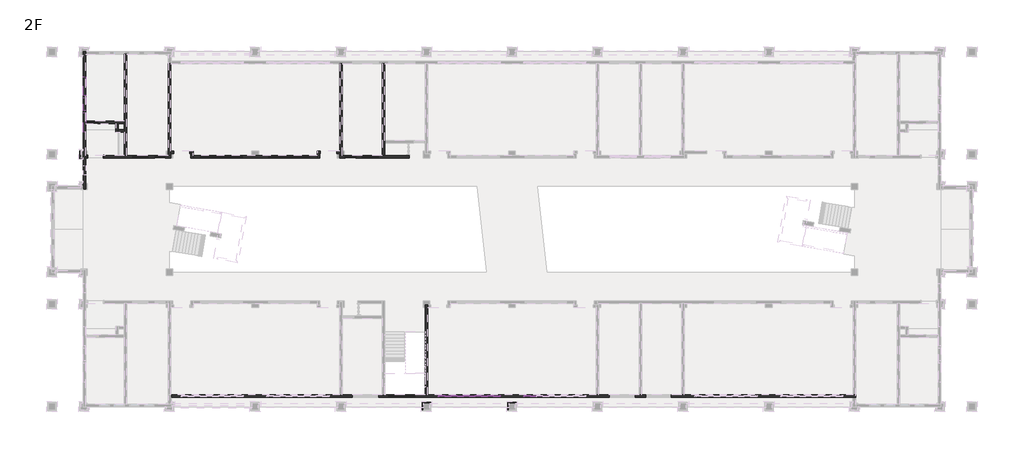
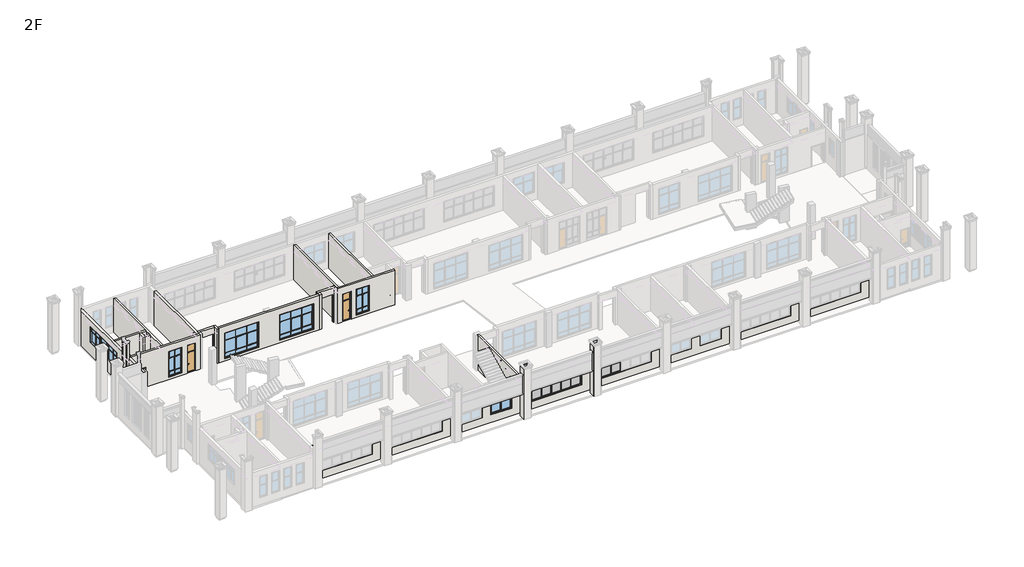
# One storey, part 3 of 16: 32 members, 23 walls, 11 plates, 8 windows, 4 doors.
"""IFC4 building model written with IfcOpenShell, lengths in millimetres."""

from ifc_helpers import new_model, si_unit, frame, origin, place, context, project, spatial, polyline, outline, extrude, faceted_brep, transform, mapped, element, save
from components import dk2_dk2_fd451be2, m2_m2_dfb05117, m2_m2_a1934b10, m3_m3_9c525ee5, member_7564be38, member_1f4d75dd, member_0b7842ad, member_163d5e45, member_ffafc35e, member_2b011958, member_9c26cac3, member_6c42befd, member_a374fdad, plate_f4dba16c, plate_1cc4df2b, plate_4fa5932a, plate_00f9c624, plate_18a10205, window_f5fa71fb, lc4_lc4_b4c6c5ac, lc5_lc5_9ec79463, lc6_lc6_03a52bd1, lc6_lc6_d9b30954, lc7_lc7_e78a5a98, lc7a_lc7a_525a1188

model = new_model("IFC4")

# Units and contexts
model_context = context("Model", 3, world=origin())
ifc_project = project(units=[si_unit("LENGTHUNIT", "METRE", prefix="MILLI")], contexts=[model_context])

# Site, building, storey
site = spatial("IfcSite", under=ifc_project)
building = spatial("IfcBuilding", under=site)
storey = spatial("IfcBuildingStorey", under=building, Name="2F", Elevation=4200.0)

# Doors
placement = place(None, origin())
dk2_dk2_shape = dk2_dk2_fd451be2(model_context)
element("IfcDoor", 1, ObjectType="DK2 : DK2", at=placement, inside=storey, context=model_context, shape_type="MappedRepresentation", body=[
    mapped(dk2_dk2_shape, transform((4075.0, 23399.723093, 4200.0), x_axis=(1.0, 0.0, 0.0), y_axis=(0.0, 1.0, 0.0), z_axis=(0.0, 0.0, 1.0))),
])
m2_m2_shape = m2_m2_dfb05117(model_context)
element("IfcDoor", 2, ObjectType="M2 : M2", at=placement, inside=storey, context=model_context, shape_type="MappedRepresentation", body=[
    mapped(m2_m2_shape, transform((27900.0000051, 23399.6954638, 4200.0), x_axis=(1.0, 0.0, 0.0), y_axis=(0.0, 1.0, 0.0), z_axis=(0.0, 0.0, 1.0))),
])
m2_m2_2_shape = m2_m2_a1934b10(model_context)
element("IfcDoor", 3, ObjectType="M2 : M2", at=placement, inside=storey, context=model_context, shape_type="MappedRepresentation", body=[
    mapped(m2_m2_2_shape, transform((10100.0000001, 23399.723093, 4200.0), x_axis=(-1.0, 0.0, 0.0), y_axis=(0.0, -1.0, 0.0), z_axis=(0.0, 0.0, 1.0))),
])
m3_m3_shape = m3_m3_9c525ee5(model_context)
element("IfcDoor", 4, ObjectType="M3 : M3", at=placement, inside=storey, context=model_context, shape_type="MappedRepresentation", body=[
    mapped(m3_m3_shape, transform((3800.0000003, 26599.2230983, 4200.0), x_axis=(1.0, 0.0, 0.0), y_axis=(0.0, 1.0, 0.0), z_axis=(0.0, 0.0, 1.0))),
])

# Members
member_shape = member_7564be38(model_context)
element("IfcMember", 5, ObjectType="矩形竖梃 : 教学楼 – 矩形竖梃 – 100x150mm", at=placement, inside=storey, context=model_context, shape_type="MappedRepresentation", body=[
    mapped(member_shape, transform((41900.0, 990.0, 7600.0), x_axis=(0.0, 0.0, 1.0), y_axis=(0.0, -1.0, 0.0), z_axis=(1.0, 0.0, 0.0))),
])
element("IfcMember", 6, ObjectType="矩形竖梃 : 教学楼 – 矩形竖梃 – 100x150mm", at=placement, inside=storey, context=model_context, shape_type="MappedRepresentation", body=[
    mapped(member_shape, transform((36100.0, 990.0, 5100.0), x_axis=(0.0, 0.0, -1.0), y_axis=(0.0, -1.0, 0.0), z_axis=(-1.0, 0.0, 0.0))),
])
element("IfcMember", 7, ObjectType="矩形竖梃 : 教学楼 – 矩形竖梃 – 100x150mm", at=placement, inside=storey, context=model_context, shape_type="MappedRepresentation", body=[
    mapped(member_shape, transform((44100.0, 990.0, 5100.0), x_axis=(0.0, 0.0, -1.0), y_axis=(0.0, -1.0, 0.0), z_axis=(-1.0, 0.0, 0.0))),
])
member_2_shape = member_1f4d75dd(model_context)
element("IfcMember", 8, ObjectType="矩形竖梃 : 教学楼 – 矩形竖梃 – 50x150mm", at=placement, inside=storey, context=model_context, shape_type="MappedRepresentation", body=[
    mapped(member_2_shape, transform((38450.0, 990.0, 5200.0), x_axis=(1.0, 0.0, 0.0), y_axis=(0.0, -1.0, 0.0), z_axis=(0.0, 0.0, -1.0))),
])
element("IfcMember", 9, ObjectType="矩形竖梃 : 教学楼 – 矩形竖梃 – 50x150mm", at=placement, inside=storey, context=model_context, shape_type="MappedRepresentation", body=[
    mapped(member_2_shape, transform((39550.0, 990.0, 5200.0), x_axis=(1.0, 0.0, 0.0), y_axis=(0.0, -1.0, 0.0), z_axis=(0.0, 0.0, -1.0))),
])
member_3_shape = member_0b7842ad(model_context)
element("IfcMember", 10, ObjectType="矩形竖梃 : 教学楼 – 矩形竖梃 – 50x150mm", at=placement, inside=storey, context=model_context, shape_type="MappedRepresentation", body=[
    mapped(member_3_shape, transform((37300.0, 990.0, 6650.0), x_axis=(0.0, 0.0, 1.0), y_axis=(0.0, -1.0, 0.0), z_axis=(1.0, 0.0, 0.0))),
])
element("IfcMember", 11, ObjectType="矩形竖梃 : 教学楼 – 矩形竖梃 – 50x150mm", at=placement, inside=storey, context=model_context, shape_type="MappedRepresentation", body=[
    mapped(member_3_shape, transform((45300.0, 990.0, 6650.0), x_axis=(0.0, 0.0, 1.0), y_axis=(0.0, -1.0, 0.0), z_axis=(1.0, 0.0, 0.0))),
])
member_4_shape = member_163d5e45(model_context)
element("IfcMember", 12, ObjectType="矩形竖梃 : 教学楼 – 矩形竖梃 – 50x150mm", at=placement, inside=storey, context=model_context, shape_type="MappedRepresentation", body=[
    mapped(member_4_shape, transform((38450.0, 990.0, 6650.0), x_axis=(0.0, 0.0, 1.0), y_axis=(0.0, -1.0, 0.0), z_axis=(1.0, 0.0, 0.0))),
])
element("IfcMember", 13, ObjectType="矩形竖梃 : 教学楼 – 矩形竖梃 – 50x150mm", at=placement, inside=storey, context=model_context, shape_type="MappedRepresentation", body=[
    mapped(member_4_shape, transform((40700.0, 990.0, 6650.0), x_axis=(0.0, 0.0, 1.0), y_axis=(0.0, -1.0, 0.0), z_axis=(1.0, 0.0, 0.0))),
])
element("IfcMember", 14, ObjectType="矩形竖梃 : 教学楼 – 矩形竖梃 – 50x150mm", at=placement, inside=storey, context=model_context, shape_type="MappedRepresentation", body=[
    mapped(member_3_shape, transform((39550.0, 990.0, 6650.0), x_axis=(0.0, 0.0, 1.0), y_axis=(0.0, -1.0, 0.0), z_axis=(1.0, 0.0, 0.0))),
])
element("IfcMember", 15, ObjectType="矩形竖梃 : 教学楼 – 矩形竖梃 – 50x150mm", at=placement, inside=storey, context=model_context, shape_type="MappedRepresentation", body=[
    mapped(member_3_shape, transform((41800.0, 990.0, 6650.0), x_axis=(0.0, 0.0, 1.0), y_axis=(0.0, -1.0, 0.0), z_axis=(1.0, 0.0, 0.0))),
])
member_5_shape = member_ffafc35e(model_context)
element("IfcMember", 16, ObjectType="矩形竖梃 : 教学楼 – 矩形竖梃 – 100x150mm", at=placement, inside=storey, context=model_context, shape_type="MappedRepresentation", body=[
    mapped(member_5_shape, transform((37300.0, 990.0, 5100.0), x_axis=(0.0, 0.0, -1.0), y_axis=(0.0, -1.0, 0.0), z_axis=(-1.0, 0.0, 0.0))),
])
element("IfcMember", 17, ObjectType="矩形竖梃 : 教学楼 – 矩形竖梃 – 100x150mm", at=placement, inside=storey, context=model_context, shape_type="MappedRepresentation", body=[
    mapped(member_5_shape, transform((45300.0, 990.0, 5100.0), x_axis=(0.0, 0.0, -1.0), y_axis=(0.0, -1.0, 0.0), z_axis=(-1.0, 0.0, 0.0))),
])
member_6_shape = member_2b011958(model_context)
element("IfcMember", 18, ObjectType="矩形竖梃 : 教学楼 – 矩形竖梃 – 100x150mm", at=placement, inside=storey, context=model_context, shape_type="MappedRepresentation", body=[
    mapped(member_6_shape, transform((38450.0, 990.0, 5100.0), x_axis=(0.0, 0.0, -1.0), y_axis=(0.0, -1.0, 0.0), z_axis=(-1.0, 0.0, 0.0))),
])
element("IfcMember", 19, ObjectType="矩形竖梃 : 教学楼 – 矩形竖梃 – 100x150mm", at=placement, inside=storey, context=model_context, shape_type="MappedRepresentation", body=[
    mapped(member_5_shape, transform((39550.0, 990.0, 5100.0), x_axis=(0.0, 0.0, -1.0), y_axis=(0.0, -1.0, 0.0), z_axis=(-1.0, 0.0, 0.0))),
])
element("IfcMember", 20, ObjectType="矩形竖梃 : 教学楼 – 矩形竖梃 – 100x150mm", at=placement, inside=storey, context=model_context, shape_type="MappedRepresentation", body=[
    mapped(member_shape, transform((40700.0, 990.0, 5100.0), x_axis=(0.0, 0.0, -1.0), y_axis=(0.0, -1.0, 0.0), z_axis=(-1.0, 0.0, 0.0))),
])
element("IfcMember", 21, ObjectType="矩形竖梃 : 教学楼 – 矩形竖梃 – 100x150mm", at=placement, inside=storey, context=model_context, shape_type="MappedRepresentation", body=[
    mapped(member_shape, transform((37300.0, 990.0, 7600.0), x_axis=(0.0, 0.0, 1.0), y_axis=(0.0, -1.0, 0.0), z_axis=(1.0, 0.0, 0.0))),
])
element("IfcMember", 22, ObjectType="矩形竖梃 : 教学楼 – 矩形竖梃 – 100x150mm", at=placement, inside=storey, context=model_context, shape_type="MappedRepresentation", body=[
    mapped(member_shape, transform((45300.0, 990.0, 7600.0), x_axis=(0.0, 0.0, 1.0), y_axis=(0.0, -1.0, 0.0), z_axis=(1.0, 0.0, 0.0))),
])
element("IfcMember", 23, ObjectType="矩形竖梃 : 教学楼 – 矩形竖梃 – 100x150mm", at=placement, inside=storey, context=model_context, shape_type="MappedRepresentation", body=[
    mapped(member_5_shape, transform((38450.0, 990.0, 7600.0), x_axis=(0.0, 0.0, 1.0), y_axis=(0.0, -1.0, 0.0), z_axis=(1.0, 0.0, 0.0))),
])
element("IfcMember", 24, ObjectType="矩形竖梃 : 教学楼 – 矩形竖梃 – 100x150mm", at=placement, inside=storey, context=model_context, shape_type="MappedRepresentation", body=[
    mapped(member_5_shape, transform((40700.0, 990.0, 7600.0), x_axis=(0.0, 0.0, 1.0), y_axis=(0.0, -1.0, 0.0), z_axis=(1.0, 0.0, 0.0))),
])
element("IfcMember", 25, ObjectType="矩形竖梃 : 教学楼 – 矩形竖梃 – 100x150mm", at=placement, inside=storey, context=model_context, shape_type="MappedRepresentation", body=[
    mapped(member_6_shape, transform((39550.0, 990.0, 7600.0), x_axis=(0.0, 0.0, 1.0), y_axis=(0.0, -1.0, 0.0), z_axis=(1.0, 0.0, 0.0))),
])
member_7_shape = member_9c26cac3(model_context)
element("IfcMember", 26, ObjectType="矩形竖梃 : 教学楼 – 矩形竖梃 – 50x150mm", at=placement, inside=storey, context=model_context, shape_type="MappedRepresentation", body=[
    mapped(member_7_shape, transform((37300.0, 990.0, 6675.0), x_axis=(1.0, 0.0, 0.0), y_axis=(0.0, -1.0, 0.0), z_axis=(0.0, 0.0, -1.0))),
])
element("IfcMember", 27, ObjectType="矩形竖梃 : 教学楼 – 矩形竖梃 – 50x150mm", at=placement, inside=storey, context=model_context, shape_type="MappedRepresentation", body=[
    mapped(member_7_shape, transform((38450.0, 990.0, 6675.0), x_axis=(1.0, 0.0, 0.0), y_axis=(0.0, -1.0, 0.0), z_axis=(0.0, 0.0, -1.0))),
])
element("IfcMember", 28, ObjectType="矩形竖梃 : 教学楼 – 矩形竖梃 – 50x150mm", at=placement, inside=storey, context=model_context, shape_type="MappedRepresentation", body=[
    mapped(member_7_shape, transform((39550.0, 990.0, 6675.0), x_axis=(1.0, 0.0, 0.0), y_axis=(0.0, -1.0, 0.0), z_axis=(0.0, 0.0, -1.0))),
])
element("IfcMember", 29, ObjectType="矩形竖梃 : 教学楼 – 矩形竖梃 – 50x150mm", at=placement, inside=storey, context=model_context, shape_type="MappedRepresentation", body=[
    mapped(member_7_shape, transform((40700.0, 990.0, 6675.0), x_axis=(1.0, 0.0, 0.0), y_axis=(0.0, -1.0, 0.0), z_axis=(0.0, 0.0, -1.0))),
])
element("IfcMember", 30, ObjectType="矩形竖梃 : 教学楼 – 矩形竖梃 – 50x150mm", at=placement, inside=storey, context=model_context, shape_type="MappedRepresentation", body=[
    mapped(member_7_shape, transform((45300.0, 990.0, 6675.0), x_axis=(1.0, 0.0, 0.0), y_axis=(0.0, -1.0, 0.0), z_axis=(0.0, 0.0, -1.0))),
])
member_8_shape = member_6c42befd(model_context)
element("IfcMember", 31, ObjectType="矩形竖梃 : 教学楼 – 矩形竖梃 – 100x150mm", at=placement, inside=storey, context=model_context, shape_type="MappedRepresentation", body=[
    mapped(member_8_shape, transform((36100.0, 990.0, 7500.0), x_axis=(-1.0, 0.0, 0.0), y_axis=(0.0, -1.0, 0.0), z_axis=(0.0, 0.0, 1.0))),
])
element("IfcMember", 32, ObjectType="矩形竖梃 : 教学楼 – 矩形竖梃 – 100x150mm", at=placement, inside=storey, context=model_context, shape_type="MappedRepresentation", body=[
    mapped(member_8_shape, transform((44100.0, 990.0, 7500.0), x_axis=(-1.0, 0.0, 0.0), y_axis=(0.0, -1.0, 0.0), z_axis=(0.0, 0.0, 1.0))),
])
member_9_shape = member_a374fdad(model_context)
element("IfcMember", 33, ObjectType="矩形竖梃 : 教学楼 – 矩形竖梃 – 100x150mm", at=placement, inside=storey, context=model_context, shape_type="MappedRepresentation", body=[
    mapped(member_9_shape, transform((41900.0, 990.0, 5200.0), x_axis=(1.0, 0.0, 0.0), y_axis=(0.0, -1.0, 0.0), z_axis=(0.0, 0.0, -1.0))),
])
element("IfcMember", 34, ObjectType="矩形竖梃 : 教学楼 – 矩形竖梃 – 100x150mm", at=placement, inside=storey, context=model_context, shape_type="MappedRepresentation", body=[
    mapped(member_8_shape, transform((41900.0, 990.0, 6650.0), x_axis=(1.0, 0.0, 0.0), y_axis=(0.0, -1.0, 0.0), z_axis=(0.0, 0.0, -1.0))),
])
element("IfcMember", 35, ObjectType="矩形竖梃 : 教学楼 – 矩形竖梃 – 100x150mm", at=placement, inside=storey, context=model_context, shape_type="MappedRepresentation", body=[
    mapped(member_9_shape, transform((36100.0, 990.0, 6650.0), x_axis=(-1.0, 0.0, 0.0), y_axis=(0.0, -1.0, 0.0), z_axis=(0.0, 0.0, 1.0))),
])
element("IfcMember", 36, ObjectType="矩形竖梃 : 教学楼 – 矩形竖梃 – 100x150mm", at=placement, inside=storey, context=model_context, shape_type="MappedRepresentation", body=[
    mapped(member_9_shape, transform((44100.0, 990.0, 6650.0), x_axis=(-1.0, 0.0, 0.0), y_axis=(0.0, -1.0, 0.0), z_axis=(0.0, 0.0, 1.0))),
])

# Plates
plate_shape = plate_f4dba16c(model_context)
element("IfcPlate", 37, ObjectType="系统嵌板 : 玻璃", at=placement, inside=storey, context=model_context, shape_type="MappedRepresentation", body=[
    mapped(plate_shape, transform((39000.0, 990.0, 5200.0), x_axis=(1.0, 0.0, 0.0), y_axis=(0.0, 1.0, 0.0), z_axis=(0.0, 0.0, 1.0))),
])
plate_2_shape = plate_1cc4df2b(model_context)
element("IfcPlate", 38, ObjectType="系统嵌板 : 玻璃", at=placement, inside=storey, context=model_context, shape_type="MappedRepresentation", body=[
    mapped(plate_2_shape, transform((36737.5, 990.0, 6675.0), x_axis=(1.0, 0.0, 0.0), y_axis=(0.0, 1.0, 0.0), z_axis=(0.0, 0.0, 1.0))),
])
element("IfcPlate", 39, ObjectType="系统嵌板 : 玻璃", at=placement, inside=storey, context=model_context, shape_type="MappedRepresentation", body=[
    mapped(plate_2_shape, transform((41262.5, 990.0, 6675.0), x_axis=(1.0, 0.0, 0.0), y_axis=(0.0, 1.0, 0.0), z_axis=(0.0, 0.0, 1.0))),
])
element("IfcPlate", 40, ObjectType="系统嵌板 : 玻璃", at=placement, inside=storey, context=model_context, shape_type="MappedRepresentation", body=[
    mapped(plate_2_shape, transform((44737.5, 990.0, 6675.0), x_axis=(1.0, 0.0, 0.0), y_axis=(0.0, 1.0, 0.0), z_axis=(0.0, 0.0, 1.0))),
])
plate_3_shape = plate_4fa5932a(model_context)
element("IfcPlate", 41, ObjectType="系统嵌板 : 玻璃", at=placement, inside=storey, context=model_context, shape_type="MappedRepresentation", body=[
    mapped(plate_3_shape, transform((37875.0, 990.0, 6675.0), x_axis=(1.0, 0.0, 0.0), y_axis=(0.0, 1.0, 0.0), z_axis=(0.0, 0.0, 1.0))),
])
element("IfcPlate", 42, ObjectType="系统嵌板 : 玻璃", at=placement, inside=storey, context=model_context, shape_type="MappedRepresentation", body=[
    mapped(plate_3_shape, transform((40125.0, 990.0, 6675.0), x_axis=(1.0, 0.0, 0.0), y_axis=(0.0, 1.0, 0.0), z_axis=(0.0, 0.0, 1.0))),
])
element("IfcPlate", 43, ObjectType="系统嵌板 : 玻璃", at=placement, inside=storey, context=model_context, shape_type="MappedRepresentation", body=[
    mapped(plate_3_shape, transform((45875.0, 990.0, 6675.0), x_axis=(1.0, 0.0, 0.0), y_axis=(0.0, 1.0, 0.0), z_axis=(0.0, 0.0, 1.0))),
])
plate_4_shape = plate_00f9c624(model_context)
element("IfcPlate", 44, ObjectType="系统嵌板 : 玻璃", at=placement, inside=storey, context=model_context, shape_type="MappedRepresentation", body=[
    mapped(plate_4_shape, transform((39000.0, 990.0, 6675.0), x_axis=(1.0, 0.0, 0.0), y_axis=(0.0, 1.0, 0.0), z_axis=(0.0, 0.0, 1.0))),
])
plate_5_shape = plate_18a10205(model_context)
element("IfcPlate", 45, ObjectType="教学楼 - 窗嵌板：双扇推拉窗 : 教学楼 - 窗嵌板：双扇推拉窗", at=placement, inside=storey, context=model_context, shape_type="MappedRepresentation", body=[
    mapped(plate_5_shape, transform((37312.5, 990.0, 5200.0), x_axis=(1.0, 0.0, 0.0), y_axis=(0.0, 1.0, 0.0), z_axis=(0.0, 0.0, 1.0))),
])
element("IfcPlate", 46, ObjectType="教学楼 - 窗嵌板：双扇推拉窗 : 教学楼 - 窗嵌板：双扇推拉窗", at=placement, inside=storey, context=model_context, shape_type="MappedRepresentation", body=[
    mapped(plate_5_shape, transform((45312.5, 990.0, 5200.0), x_axis=(1.0, 0.0, 0.0), y_axis=(0.0, 1.0, 0.0), z_axis=(0.0, 0.0, 1.0))),
])
element("IfcPlate", 47, ObjectType="教学楼 - 窗嵌板：双扇推拉窗 : 教学楼 - 窗嵌板：双扇推拉窗", at=placement, inside=storey, context=model_context, shape_type="MappedRepresentation", body=[
    mapped(plate_5_shape, transform((40687.5, 990.0, 5200.0), x_axis=(1.0, 0.0, 0.0), y_axis=(0.0, 1.0, 0.0), z_axis=(0.0, 0.0, 1.0))),
])

# Walls
element("IfcWall", 48, ObjectType="教学楼 – 饰面砖外墙 – 200mm", at=placement, inside=storey, context=model_context, shape_type="Brep", body=[
    faceted_brep([(3167.0000002, 20382.7242304, 4200.0), (3167.0000002, 20900.0, 4200.0), (3167.0000002, 23282.723093, 4200.0), (3167.0000002, 23516.723093, 4200.0), (3167.0000002, 23900.0, 4200.0), (3167.0000002, 26482.2230983, 4200.0), (3167.0000002, 26716.2230983, 4200.0), (3167.0000002, 32900.0, 4200.0), (3167.0000002, 32982.6954639, 4200.0), (3167.0000002, 33232.6954639, 4200.0), (3167.0000002, 33232.6954639, 8400.0), (3167.0000002, 32982.6954639, 8400.0), (3167.0000002, 32900.0, 8400.0), (3167.0000002, 26716.2230983, 8400.0), (3167.0000002, 26482.2230983, 8400.0), (3167.0000002, 23900.0, 8400.0), (3167.0000002, 23516.723093, 8400.0), (3167.0000002, 23282.723093, 8400.0), (3167.0000002, 20900.0, 8400.0), (3167.0000002, 20382.7242304, 8400.0), (3167.0000002, 27699.2230731, 5700.0), (3167.0000002, 27699.2230731, 7600.0), (3167.0000002, 28899.2230731, 7600.0), (3167.0000002, 28899.2230731, 5700.0), (3167.0000002, 21649.6954632, 5700.0), (3167.0000002, 21649.6954632, 7600.0), (3167.0000002, 22549.6954632, 7600.0), (3167.0000002, 22549.6954632, 5700.0), (3167.0000002, 25699.2230975, 5700.0), (3167.0000002, 25699.2230975, 7600.0), (3167.0000002, 27499.2230975, 7600.0), (3167.0000002, 27499.2230975, 5700.0), (3167.0000002, 30899.2230999, 5700.0), (3167.0000002, 29099.2230999, 5700.0), (3167.0000002, 29099.2230999, 7600.0), (3167.0000002, 30899.2230999, 7600.0), (2917.0000002, 20382.7242304, 4200.0), (2917.0000002, 20382.7242304, 8400.0), (2917.0000002, 20632.7242304, 8400.0), (2917.0000002, 20900.0, 8400.0), (2917.0000002, 23300.0, 8400.0), (2917.0000002, 23900.0, 8400.0), (2917.0000002, 32900.0, 8400.0), (2917.0000002, 33232.6954639, 8400.0), (2917.0000002, 33232.6954639, 4200.0), (2917.0000002, 32900.0, 4200.0), (2917.0000002, 23900.0, 4200.0), (2917.0000002, 23300.0, 4200.0), (2917.0000002, 20900.0, 4200.0), (2917.0000002, 20632.7242304, 4200.0), (2917.0000002, 27699.2230731, 5700.0), (2917.0000002, 28899.2230731, 5700.0), (2917.0000002, 28899.2230731, 7600.0), (2917.0000002, 27699.2230731, 7600.0), (2917.0000002, 21649.6954632, 5700.0), (2917.0000002, 22549.6954632, 5700.0), (2917.0000002, 22549.6954632, 7600.0), (2917.0000002, 21649.6954632, 7600.0), (2917.0000002, 25699.2230975, 5700.0), (2917.0000002, 27499.2230975, 5700.0), (2917.0000002, 27499.2230975, 7600.0), (2917.0000002, 25699.2230975, 7600.0), (2917.0000002, 30899.2230999, 5700.0), (2917.0000002, 30899.2230999, 7600.0), (2917.0000002, 29099.2230999, 7600.0), (2917.0000002, 29099.2230999, 5700.0)], [[[0, 1, 2, 3, 4, 5, 6, 7, 8, 9, 10, 11, 12, 13, 14, 15, 16, 17, 18, 19], [20, 21, 22, 23], [24, 25, 26, 27], [28, 29, 30, 31], [32, 33, 34, 35]], [[36, 37, 38, 39, 40, 41, 42, 43, 44, 45, 46, 47, 48, 49], [50, 51, 52, 53], [54, 55, 56, 57], [58, 59, 60, 61], [62, 63, 64, 65]], [[9, 8, 7, 6, 5, 4, 3, 2, 1, 0, 36, 49, 48, 47, 46, 45, 44]], [[19, 18, 17, 16, 15, 14, 13, 12, 11, 10, 43, 42, 41, 40, 39, 38, 37]], [[10, 9, 44, 43]], [[0, 19, 37, 36]], [[21, 20, 50, 53]], [[22, 21, 53, 52]], [[23, 22, 52, 51]], [[20, 23, 51, 50]], [[25, 24, 54, 57]], [[26, 25, 57, 56]], [[27, 26, 56, 55]], [[24, 27, 55, 54]], [[29, 28, 58, 61]], [[30, 29, 61, 60]], [[31, 30, 60, 59]], [[28, 31, 59, 58]], [[63, 62, 32, 35]], [[64, 63, 35, 34]], [[65, 64, 34, 33]], [[62, 65, 33, 32]]]),
])
element("IfcWall", 49, ObjectType="教学楼 – 饰面砖外墙 – 200mm", at=placement, inside=storey, context=model_context, shape_type="Brep", body=[
    faceted_brep([(11133.0, 875.0, 4200.0), (74867.0, 875.0, 4200.0), (75117.0, 875.0, 4200.0), (75117.0, 875.0, 8400.0), (74867.0, 875.0, 8400.0), (11133.0, 875.0, 8400.0), (68099.9999993, 875.0, 5100.0), (68099.9999993, 875.0, 7600.0), (73899.9999993, 875.0, 7600.0), (73899.9999993, 875.0, 5100.0), (60100.0, 875.0, 5100.0), (60100.0, 875.0, 7600.0), (65900.0, 875.0, 7600.0), (65900.0, 875.0, 5100.0), (44100.0, 875.0, 5100.0), (44100.0, 875.0, 7600.0), (49900.0, 875.0, 7600.0), (49900.0, 875.0, 5100.0), (36100.0, 875.0, 5100.0), (36100.0, 875.0, 7600.0), (41900.0, 875.0, 7600.0), (41900.0, 875.0, 5100.0), (20100.0, 875.0, 5100.0), (20100.0, 875.0, 7600.0), (25900.0, 875.0, 7600.0), (25900.0, 875.0, 5100.0), (12099.9999993, 875.0, 5100.0), (12099.9999993, 875.0, 7600.0), (17899.9999993, 875.0, 7600.0), (17899.9999993, 875.0, 5100.0), (55499.9999993, 875.0, 5100.0), (55499.9999993, 875.0, 7600.0), (57899.9999993, 875.0, 7600.0), (57899.9999993, 875.0, 5100.0), (54499.9999999, 875.0, 7600.0), (54499.9999999, 875.0, 5100.0), (52099.9999999, 875.0, 5100.0), (52099.9999999, 875.0, 7600.0), (31499.9999993, 875.0, 5100.0), (31499.9999993, 875.0, 7600.0), (33899.9999993, 875.0, 7600.0), (33899.9999993, 875.0, 5100.0), (30499.9999993, 875.0, 7600.0), (30499.9999993, 875.0, 5100.0), (28099.9999993, 875.0, 5100.0), (28099.9999993, 875.0, 7600.0), (75117.0, 1125.0, 4200.0), (74883.0, 1125.0, 4200.0), (59117.0, 1125.0, 4200.0), (58883.0, 1125.0, 4200.0), (55116.9999999, 1125.0, 4200.0), (54882.9999999, 1125.0, 4200.0), (51117.0, 1125.0, 4200.0), (50883.0, 1125.0, 4200.0), (35117.0, 1125.0, 4200.0), (34883.0, 1125.0, 4200.0), (31117.0000029, 1125.0, 4200.0), (30883.0000029, 1125.0, 4200.0), (27117.0, 1125.0, 4200.0), (26883.0, 1125.0, 4200.0), (11133.0, 1125.0, 4200.0), (11133.0, 1125.0, 8400.0), (26883.0, 1125.0, 8400.0), (27117.0, 1125.0, 8400.0), (30883.0000029, 1125.0, 8400.0), (31117.0000029, 1125.0, 8400.0), (34883.0, 1125.0, 8400.0), (35117.0, 1125.0, 8400.0), (50883.0, 1125.0, 8400.0), (51117.0, 1125.0, 8400.0), (54882.9999999, 1125.0, 8400.0), (55116.9999999, 1125.0, 8400.0), (58883.0, 1125.0, 8400.0), (59117.0, 1125.0, 8400.0), (74883.0, 1125.0, 8400.0), (75117.0, 1125.0, 8400.0), (68099.9999993, 1125.0, 7600.0), (68099.9999993, 1125.0, 5100.0), (73899.9999993, 1125.0, 5100.0), (73899.9999993, 1125.0, 7600.0), (60100.0, 1125.0, 7600.0), (60100.0, 1125.0, 5100.0), (65900.0, 1125.0, 5100.0), (65900.0, 1125.0, 7600.0), (44100.0, 1125.0, 7600.0), (44100.0, 1125.0, 5100.0), (49900.0, 1125.0, 5100.0), (49900.0, 1125.0, 7600.0), (36100.0, 1125.0, 7600.0), (36100.0, 1125.0, 5100.0), (41900.0, 1125.0, 5100.0), (41900.0, 1125.0, 7600.0), (20100.0, 1125.0, 7600.0), (20100.0, 1125.0, 5100.0), (25900.0, 1125.0, 5100.0), (25900.0, 1125.0, 7600.0), (12099.9999993, 1125.0, 7600.0), (12099.9999993, 1125.0, 5100.0), (17899.9999993, 1125.0, 5100.0), (17899.9999993, 1125.0, 7600.0), (55499.9999993, 1125.0, 7600.0), (55499.9999993, 1125.0, 5100.0), (57899.9999993, 1125.0, 5100.0), (57899.9999993, 1125.0, 7600.0), (54499.9999999, 1125.0, 5100.0), (54499.9999999, 1125.0, 7600.0), (52099.9999999, 1125.0, 7600.0), (52099.9999999, 1125.0, 5100.0), (31499.9999993, 1125.0, 7600.0), (31499.9999993, 1125.0, 5100.0), (33899.9999993, 1125.0, 5100.0), (33899.9999993, 1125.0, 7600.0), (30499.9999993, 1125.0, 5100.0), (30499.9999993, 1125.0, 7600.0), (28099.9999993, 1125.0, 7600.0), (28099.9999993, 1125.0, 5100.0)], [[[0, 1, 2, 3, 4, 5], [6, 7, 8, 9], [10, 11, 12, 13], [14, 15, 16, 17], [18, 19, 20, 21], [22, 23, 24, 25], [26, 27, 28, 29], [30, 31, 32, 33], [34, 35, 36, 37], [38, 39, 40, 41], [42, 43, 44, 45]], [[46, 47, 48, 49, 50, 51, 52, 53, 54, 55, 56, 57, 58, 59, 60, 61, 62, 63, 64, 65, 66, 67, 68, 69, 70, 71, 72, 73, 74, 75], [76, 77, 78, 79], [80, 81, 82, 83], [84, 85, 86, 87], [88, 89, 90, 91], [92, 93, 94, 95], [96, 97, 98, 99], [100, 101, 102, 103], [104, 105, 106, 107], [108, 109, 110, 111], [112, 113, 114, 115]], [[2, 1, 0, 60, 59, 58, 57, 56, 55, 54, 53, 52, 51, 50, 49, 48, 47, 46]], [[5, 4, 3, 75, 74, 73, 72, 71, 70, 69, 68, 67, 66, 65, 64, 63, 62, 61]], [[0, 5, 61, 60]], [[3, 2, 46, 75]], [[6, 77, 76, 7]], [[7, 76, 79, 8]], [[8, 79, 78, 9]], [[77, 6, 9, 78]], [[10, 81, 80, 11]], [[11, 80, 83, 12]], [[12, 83, 82, 13]], [[81, 10, 13, 82]], [[14, 85, 84, 15]], [[15, 84, 87, 16]], [[16, 87, 86, 17]], [[85, 14, 17, 86]], [[18, 89, 88, 19]], [[19, 88, 91, 20]], [[20, 91, 90, 21]], [[89, 18, 21, 90]], [[22, 93, 92, 23]], [[23, 92, 95, 24]], [[24, 95, 94, 25]], [[93, 22, 25, 94]], [[26, 97, 96, 27]], [[27, 96, 99, 28]], [[28, 99, 98, 29]], [[97, 26, 29, 98]], [[31, 30, 101, 100]], [[32, 31, 100, 103]], [[33, 32, 103, 102]], [[30, 33, 102, 101]], [[105, 104, 35, 34]], [[106, 105, 34, 37]], [[107, 106, 37, 36]], [[104, 107, 36, 35]], [[39, 38, 109, 108]], [[40, 39, 108, 111]], [[41, 40, 111, 110]], [[38, 41, 110, 109]], [[113, 112, 43, 42]], [[114, 113, 42, 45]], [[115, 114, 45, 44]], [[112, 115, 44, 43]]]),
])
element("IfcWall", 50, ObjectType="教学楼 – 涂料内墙 – 200mm", at=placement, inside=storey, context=model_context, shape_type="Brep", body=[
    faceted_brep([(10883.0, 32075.0, 4200.0), (10883.0, 23916.723093, 4200.0), (10883.0, 23516.723093, 4200.0), (10883.0, 23516.723093, 8400.0), (10883.0, 23916.723093, 8400.0), (10883.0, 32075.0, 8400.0), (11117.0, 32075.0, 4200.0), (11117.0, 32075.0, 8400.0), (11117.0, 23916.7231012, 8400.0), (11117.0, 23682.7231012, 8400.0), (11117.0, 23516.723093, 8400.0), (11117.0, 23516.723093, 4200.0), (11117.0, 23682.7231012, 4200.0), (11117.0, 23916.7231012, 4200.0)], [[[0, 1, 2, 3, 4, 5]], [[6, 7, 8, 9, 10, 11, 12, 13]], [[2, 1, 0, 6, 13, 12, 11]], [[5, 4, 3, 10, 9, 8, 7]], [[0, 5, 7, 6]], [[3, 2, 11, 10]]]),
])
element("IfcWall", 51, ObjectType="教学楼 – 涂料内墙 – 200mm", at=placement, inside=storey, context=model_context, shape_type="Brep", body=[
    faceted_brep([(6783.0000003, 32982.6954639, 4200.0), (6783.0000003, 26716.2230983, 4200.0), (6783.0000003, 26482.2230983, 4200.0), (6783.0000003, 25916.2231012, 4200.0), (6783.0000003, 25682.2231012, 4200.0), (6783.0000003, 23516.723093, 4200.0), (6783.0000003, 23516.723093, 8400.0), (6783.0000003, 25682.2231012, 8400.0), (6783.0000003, 25916.2231012, 8400.0), (6783.0000003, 26482.2230983, 8400.0), (6783.0000003, 26716.2230983, 8400.0), (6783.0000003, 32982.6954639, 8400.0), (7017.0000003, 32982.6954639, 4200.0), (7017.0000003, 32982.6954639, 8400.0), (7017.0000003, 23516.723093, 8400.0), (7017.0000003, 23516.723093, 4200.0)], [[[0, 1, 2, 3, 4, 5, 6, 7, 8, 9, 10, 11]], [[12, 13, 14, 15]], [[5, 4, 3, 2, 1, 0, 12, 15]], [[11, 10, 9, 8, 7, 6, 14, 13]], [[6, 5, 15, 14]], [[0, 11, 13, 12]]]),
])
element("IfcWall", 52, ObjectType="教学楼 – 涂料内墙 – 200mm", at=placement, inside=storey, context=model_context, shape_type="Brep", body=[
    faceted_brep([(26883.0, 32075.0, 4200.0), (26883.0, 23917.0, 4200.0), (26883.0, 23916.7231007, 4200.0), (26883.0, 23682.7231007, 4200.0), (26883.0, 23516.6954638, 4200.0), (26883.0, 23516.6954638, 8400.0), (26883.0, 23682.7231007, 8400.0), (26883.0, 23916.7231007, 8400.0), (26883.0, 23917.0, 8400.0), (26883.0, 32075.0, 8400.0), (27117.0, 32075.0, 4200.0), (27117.0, 32075.0, 8400.0), (27117.0, 23917.0, 8400.0), (27117.0, 23516.6954638, 8400.0), (27117.0, 23516.6954638, 4200.0), (27117.0, 23917.0, 4200.0)], [[[0, 1, 2, 3, 4, 5, 6, 7, 8, 9]], [[10, 11, 12, 13, 14, 15]], [[4, 3, 2, 1, 0, 10, 15, 14]], [[9, 8, 7, 6, 5, 13, 12, 11]], [[5, 4, 14, 13]], [[0, 9, 11, 10]]]),
])
element("IfcWall", 53, ObjectType="教学楼 – 涂料内墙 – 200mm", at=placement, inside=storey, context=model_context, shape_type="Brep", body=[
    faceted_brep([(30883.0000029, 32075.0, 4200.0), (30883.0000029, 23516.6954638, 4200.0), (30883.0000029, 23516.6954638, 8400.0), (30883.0000029, 32075.0, 8400.0), (31117.0000029, 32075.0, 4200.0), (31117.0000029, 32075.0, 8400.0), (31117.0000029, 24916.6954638, 8400.0), (31117.0000029, 24682.6954638, 8400.0), (31117.0000029, 23516.6954638, 8400.0), (31117.0000029, 23516.6954638, 4200.0), (31117.0000029, 24682.6954638, 4200.0), (31117.0000029, 24916.6954638, 4200.0)], [[[0, 1, 2, 3]], [[4, 5, 6, 7, 8, 9, 10, 11]], [[1, 0, 4, 11, 10, 9]], [[3, 2, 8, 7, 6, 5]], [[2, 1, 9, 8]], [[0, 3, 5, 4]]]),
])
element("IfcWall", 54, ObjectType="教学楼 – 涂料内墙 – 200mm", at=placement, inside=storey, context=model_context, shape_type="Brep", body=[
    faceted_brep([(33417.0000031, 23282.6954638, 8400.0), (26883.0, 23282.6954638, 8400.0), (26883.0, 23282.6954638, 4200.0), (27400.0000051, 23282.6954638, 4200.0), (27400.0000051, 23282.6954638, 7600.0), (28400.0000051, 23282.6954638, 7600.0), (28400.0000051, 23282.6954638, 4200.0), (33417.0000031, 23282.6954638, 4200.0), (30500.0, 23282.6954638, 7600.0), (30500.0, 23282.6954638, 4500.0), (29000.0, 23282.6954638, 4500.0), (29000.0, 23282.6954638, 7600.0), (26883.0, 23516.6954638, 8400.0), (27117.0, 23516.6954638, 8400.0), (27317.0, 23516.6954638, 8400.0), (30883.0000029, 23516.6954638, 8400.0), (31117.0000029, 23516.6954638, 8400.0), (33183.0000031, 23516.6954638, 8400.0), (33417.0000031, 23516.6954638, 8400.0), (33417.0000031, 23516.6954638, 4200.0), (33183.0000031, 23516.6954638, 4200.0), (31117.0000029, 23516.6954638, 4200.0), (30883.0000029, 23516.6954638, 4200.0), (28400.0000051, 23516.6954638, 4200.0), (28400.0000051, 23516.6954638, 7600.0), (27400.0000051, 23516.6954638, 7600.0), (27400.0000051, 23516.6954638, 4200.0), (27317.0, 23516.6954638, 4200.0), (27117.0, 23516.6954638, 4200.0), (26883.0, 23516.6954638, 4200.0), (30500.0, 23516.6954638, 4500.0), (30500.0, 23516.6954638, 7600.0), (29000.0, 23516.6954638, 7600.0), (29000.0, 23516.6954638, 4500.0), (26883.0, 23283.0, 4200.0), (26883.0, 23283.0, 8400.0)], [[[0, 1, 2, 3, 4, 5, 6, 7], [8, 9, 10, 11]], [[12, 13, 14, 15, 16, 17, 18, 19, 20, 21, 22, 23, 24, 25, 26, 27, 28, 29], [30, 31, 32, 33]], [[19, 7, 6, 23, 22, 21, 20]], [[2, 34, 29, 28, 27, 26, 3]], [[1, 0, 18, 17, 16, 15, 14, 13, 12, 35]], [[0, 7, 19, 18]], [[2, 1, 35, 12, 29, 34]], [[31, 30, 9, 8]], [[32, 31, 8, 11]], [[33, 32, 11, 10]], [[30, 33, 10, 9]], [[5, 24, 23, 6]], [[24, 5, 4, 25]], [[25, 4, 3, 26]]]),
])
element("IfcWall", 55, ObjectType="教学楼 – 涂料内墙 – 200mm", at=placement, inside=storey, context=model_context, shape_type="Brep", body=[
    faceted_brep([(24782.9999964, 23916.7231007, 8400.0), (26683.0, 23916.7231007, 8400.0), (26883.0, 23916.7231007, 8400.0), (26883.0, 23916.7231007, 4200.0), (26683.0, 23916.7231007, 4200.0), (26599.9999969, 23916.7231007, 4200.0), (26599.9999969, 23916.7231007, 7600.0), (25099.9999969, 23916.7231007, 7600.0), (25099.9999969, 23916.7231007, 4200.0), (24782.9999964, 23916.7231007, 4200.0), (26883.0, 23682.7231007, 8400.0), (26683.0, 23682.7231007, 8400.0), (25016.9999964, 23682.7231007, 8400.0), (24782.9999964, 23682.7231007, 8400.0), (24782.9999964, 23682.7231007, 4200.0), (25016.9999964, 23682.7231007, 4200.0), (25099.9999969, 23682.7231007, 4200.0), (25099.9999969, 23682.7231007, 7600.0), (26599.9999969, 23682.7231007, 7600.0), (26599.9999969, 23682.7231007, 4200.0), (26683.0, 23682.7231007, 4200.0), (26883.0, 23682.7231007, 4200.0)], [[[0, 1, 2, 3, 4, 5, 6, 7, 8, 9]], [[10, 11, 12, 13, 14, 15, 16, 17, 18, 19, 20, 21]], [[14, 9, 8, 16, 15]], [[3, 21, 20, 19, 5, 4]], [[2, 1, 0, 13, 12, 11, 10]], [[0, 9, 14, 13]], [[3, 2, 10, 21]], [[7, 17, 16, 8]], [[17, 7, 6, 18]], [[18, 6, 5, 19]]]),
])
element("IfcWall", 56, ObjectType="教学楼 – 涂料内墙 – 200mm", at=placement, inside=storey, context=model_context, shape_type="Brep", body=[
    faceted_brep([(24782.9999964, 23682.7231007, 4200.0), (24782.9999964, 23516.6954641, 4200.0), (24782.9999964, 23282.6954641, 4200.0), (24782.9999964, 23282.6954641, 8400.0), (24782.9999964, 23516.6954641, 8400.0), (24782.9999964, 23682.7231007, 8400.0), (25016.9999964, 23682.7231007, 4200.0), (25016.9999964, 23682.7231007, 8400.0), (25016.9999964, 23282.6954641, 8400.0), (25016.9999964, 23282.6954641, 4200.0)], [[[0, 1, 2, 3, 4, 5]], [[6, 7, 8, 9]], [[2, 1, 0, 6, 9]], [[5, 4, 3, 8, 7]], [[0, 5, 7, 6]], [[3, 2, 9, 8]]]),
])
element("IfcWall", 57, ObjectType="教学楼 – 涂料内墙 – 200mm", at=placement, inside=storey, context=model_context, shape_type="Brep", body=[
    faceted_brep([(24782.9999964, 23516.6954641, 4200.0), (19317.0, 23516.6954641, 4200.0), (18683.0, 23516.6954641, 4200.0), (13216.9999996, 23516.6954641, 4200.0), (13216.9999996, 23516.6954641, 8400.0), (18683.0, 23516.6954641, 8400.0), (19317.0, 23516.6954641, 8400.0), (24782.9999964, 23516.6954641, 8400.0), (24099.9999999, 23516.6954641, 4500.0), (24099.9999999, 23516.6954641, 7600.0), (20199.9999999, 23516.6954641, 7600.0), (20199.9999999, 23516.6954641, 4500.0), (17799.999999, 23516.6954641, 4500.0), (17799.999999, 23516.6954641, 7600.0), (13899.999999, 23516.6954641, 7600.0), (13899.999999, 23516.6954641, 4500.0), (24782.9999964, 23282.6954641, 4200.0), (24782.9999964, 23282.6954641, 8400.0), (13216.9999996, 23282.6954641, 8400.0), (13216.9999996, 23282.6954641, 4200.0), (24099.9999999, 23282.6954641, 4500.0), (20199.9999999, 23282.6954641, 4500.0), (20199.9999999, 23282.6954641, 7600.0), (24099.9999999, 23282.6954641, 7600.0), (17799.999999, 23282.6954641, 4500.0), (13899.999999, 23282.6954641, 4500.0), (13899.999999, 23282.6954641, 7600.0), (17799.999999, 23282.6954641, 7600.0)], [[[0, 1, 2, 3, 4, 5, 6, 7], [8, 9, 10, 11], [12, 13, 14, 15]], [[16, 17, 18, 19], [20, 21, 22, 23], [24, 25, 26, 27]], [[3, 2, 1, 0, 16, 19]], [[7, 6, 5, 4, 18, 17]], [[0, 7, 17, 16]], [[4, 3, 19, 18]], [[9, 8, 20, 23]], [[10, 9, 23, 22]], [[11, 10, 22, 21]], [[8, 11, 21, 20]], [[13, 12, 24, 27]], [[14, 13, 27, 26]], [[15, 14, 26, 25]], [[12, 15, 25, 24]]]),
])
element("IfcWall", 58, ObjectType="教学楼 – 涂料内墙 – 200mm", at=placement, inside=storey, context=model_context, shape_type="Brep", body=[
    faceted_brep([(13216.9999996, 23282.6954641, 4200.0), (13216.9999996, 23516.6954641, 4200.0), (13216.9999996, 23916.7231012, 4200.0), (13216.9999996, 23916.7231012, 8400.0), (13216.9999996, 23516.6954641, 8400.0), (13216.9999996, 23282.6954641, 8400.0), (12982.9999996, 23282.6954641, 4200.0), (12982.9999996, 23282.6954641, 8400.0), (12982.9999996, 23682.7231012, 8400.0), (12982.9999996, 23916.7231012, 8400.0), (12982.9999996, 23916.7231012, 4200.0), (12982.9999996, 23682.7231012, 4200.0)], [[[0, 1, 2, 3, 4, 5]], [[6, 7, 8, 9, 10, 11]], [[2, 1, 0, 6, 11, 10]], [[5, 4, 3, 9, 8, 7]], [[3, 2, 10, 9]], [[0, 5, 7, 6]]]),
])
element("IfcWall", 59, ObjectType="教学楼 – 涂料内墙 – 200mm", at=placement, inside=storey, context=model_context, shape_type="Brep", body=[
    faceted_brep([(11117.0, 23916.7231012, 8400.0), (12982.9999996, 23916.7231012, 8400.0), (12982.9999996, 23916.7231012, 4200.0), (12900.0000009, 23916.7231012, 4200.0), (12900.0000009, 23916.7231012, 7600.0), (11400.0000009, 23916.7231012, 7600.0), (11400.0000009, 23916.7231012, 4200.0), (11117.0, 23916.7231012, 4200.0), (12982.9999996, 23682.7231012, 8400.0), (11317.0, 23682.7231012, 8400.0), (11117.0, 23682.7231012, 8400.0), (11117.0, 23682.7231012, 4200.0), (11317.0, 23682.7231012, 4200.0), (11400.0000009, 23682.7231012, 4200.0), (11400.0000009, 23682.7231012, 7600.0), (12900.0000009, 23682.7231012, 7600.0), (12900.0000009, 23682.7231012, 4200.0), (12982.9999996, 23682.7231012, 4200.0)], [[[0, 1, 2, 3, 4, 5, 6, 7]], [[8, 9, 10, 11, 12, 13, 14, 15, 16, 17]], [[2, 17, 16, 3]], [[11, 7, 6, 13, 12]], [[1, 0, 10, 9, 8]], [[2, 1, 8, 17]], [[0, 7, 11, 10]], [[5, 14, 13, 6]], [[14, 5, 4, 15]], [[15, 4, 3, 16]]]),
])
element("IfcWall", 60, ObjectType="教学楼 – 涂料内墙 – 200mm", at=placement, inside=storey, context=model_context, shape_type="Brep", body=[
    faceted_brep([(11117.0, 23282.723093, 8400.0), (3167.0000002, 23282.723093, 8400.0), (3167.0000002, 23282.723093, 4200.0), (3300.0, 23282.723093, 4200.0), (3300.0, 23282.723093, 6600.0), (4850.0, 23282.723093, 6600.0), (4850.0, 23282.723093, 4200.0), (9600.0000001, 23282.723093, 4200.0), (9600.0000001, 23282.723093, 7600.0), (10600.0000001, 23282.723093, 7600.0), (10600.0000001, 23282.723093, 4200.0), (11117.0, 23282.723093, 4200.0), (7500.0, 23282.723093, 4500.0), (7500.0, 23282.723093, 7600.0), (9000.0, 23282.723093, 7600.0), (9000.0, 23282.723093, 4500.0), (3167.0000002, 23516.723093, 8400.0), (3300.0, 23516.723093, 8400.0), (6783.0000003, 23516.723093, 8400.0), (7017.0000003, 23516.723093, 8400.0), (10683.0, 23516.723093, 8400.0), (10883.0, 23516.723093, 8400.0), (11117.0, 23516.723093, 8400.0), (11117.0, 23516.723093, 4200.0), (10883.0, 23516.723093, 4200.0), (10683.0, 23516.723093, 4200.0), (10600.0000001, 23516.723093, 4200.0), (10600.0000001, 23516.723093, 7600.0), (9600.0000001, 23516.723093, 7600.0), (9600.0000001, 23516.723093, 4200.0), (7017.0000003, 23516.723093, 4200.0), (6783.0000003, 23516.723093, 4200.0), (4850.0, 23516.723093, 4200.0), (4850.0, 23516.723093, 6600.0), (3300.0, 23516.723093, 6600.0), (3300.0, 23516.723093, 4200.0), (3167.0000002, 23516.723093, 4200.0), (7500.0, 23516.723093, 4500.0), (9000.0, 23516.723093, 4500.0), (9000.0, 23516.723093, 7600.0), (7500.0, 23516.723093, 7600.0)], [[[0, 1, 2, 3, 4, 5, 6, 7, 8, 9, 10, 11], [12, 13, 14, 15]], [[16, 17, 18, 19, 20, 21, 22, 23, 24, 25, 26, 27, 28, 29, 30, 31, 32, 33, 34, 35, 36], [37, 38, 39, 40]], [[2, 36, 35, 3]], [[23, 11, 10, 26, 25, 24]], [[6, 32, 31, 30, 29, 7]], [[1, 0, 22, 21, 20, 19, 18, 17, 16]], [[0, 11, 23, 22]], [[2, 1, 16, 36]], [[5, 33, 32, 6]], [[33, 5, 4, 34]], [[34, 4, 3, 35]], [[28, 8, 7, 29]], [[8, 28, 27, 9]], [[9, 27, 26, 10]], [[13, 12, 37, 40]], [[14, 13, 40, 39]], [[15, 14, 39, 38]], [[12, 15, 38, 37]]]),
])
element("IfcWall", 61, ObjectType="教学楼 – 涂料内墙 – 200mm", at=placement, inside=storey, context=model_context, shape_type="Brep", body=[
    faceted_brep([(3167.0000002, 26716.2230983, 8400.0), (6783.0000003, 26716.2230983, 8400.0), (6783.0000003, 26716.2230983, 4200.0), (4300.0000003, 26716.2230983, 4200.0), (4300.0000003, 26716.2230983, 6500.0), (3300.0000003, 26716.2230983, 6500.0), (3300.0000003, 26716.2230983, 4200.0), (3167.0000002, 26716.2230983, 4200.0), (6783.0000003, 26482.2230983, 8400.0), (6217.0000019, 26482.2230983, 8400.0), (5983.0000019, 26482.2230983, 8400.0), (3167.0000002, 26482.2230983, 8400.0), (3167.0000002, 26482.2230983, 4200.0), (3300.0000003, 26482.2230983, 4200.0), (3300.0000003, 26482.2230983, 6500.0), (4300.0000003, 26482.2230983, 6500.0), (4300.0000003, 26482.2230983, 4200.0), (5983.0000019, 26482.2230983, 4200.0), (6217.0000019, 26482.2230983, 4200.0), (6783.0000003, 26482.2230983, 4200.0)], [[[0, 1, 2, 3, 4, 5, 6, 7]], [[8, 9, 10, 11, 12, 13, 14, 15, 16, 17, 18, 19]], [[2, 19, 18, 17, 16, 3]], [[12, 7, 6, 13]], [[1, 0, 11, 10, 9, 8]], [[2, 1, 8, 19]], [[0, 7, 12, 11]], [[15, 4, 3, 16]], [[4, 15, 14, 5]], [[5, 14, 13, 6]]]),
])
element("IfcWall", 62, ObjectType="教学楼 – 涂料内墙 – 200mm", at=placement, inside=storey, context=model_context, shape_type="Brep", body=[
    faceted_brep([(6217.0000019, 25682.2231012, 4200.0), (6217.0000019, 25916.2231012, 4200.0), (6217.0000019, 26482.2230983, 4200.0), (6217.0000019, 26482.2230983, 8400.0), (6217.0000019, 25916.2231012, 8400.0), (6217.0000019, 25682.2231012, 8400.0), (5983.0000019, 25682.2231012, 4200.0), (5983.0000019, 25682.2231012, 8400.0), (5983.0000019, 26482.2230983, 8400.0), (5983.0000019, 26482.2230983, 4200.0)], [[[0, 1, 2, 3, 4, 5]], [[6, 7, 8, 9]], [[2, 1, 0, 6, 9]], [[5, 4, 3, 8, 7]], [[0, 5, 7, 6]], [[3, 2, 9, 8]]]),
])
element("IfcWall", 63, ObjectType="教学楼 – 涂料内墙 – 200mm", at=placement, inside=storey, context=model_context, shape_type="SweptSolid", body=[
    extrude(outline(polyline([(6217.0000019, 25916.2231012), (6783.0000003, 25916.2231012), (6783.0000003, 25682.2231012), (6217.0000019, 25682.2231012), (6217.0000019, 25916.2231012)])), frame((0.0, 0.0, 4200.0), z_axis=(0.0, 0.0, 1.0), x_axis=(1.0, 0.0, 0.0)), (0.0, 0.0, 1.0), 4200.0),
])
element("IfcWall", 64, ObjectType="教学楼 – 涂料内墙 – 200mm", at=placement, inside=storey, context=model_context, shape_type="Brep", body=[
    faceted_brep([(35117.0, 1125.0, 4200.0), (35117.0, 9283.0, 4200.0), (35117.0, 9283.2768988, 4200.0), (35117.0, 9517.2768988, 4200.0), (35117.0, 9517.2768988, 8400.0), (35117.0, 9283.2768988, 8400.0), (35117.0, 9283.0, 8400.0), (35117.0, 1125.0, 8400.0), (34883.0, 1125.0, 4200.0), (34883.0, 1125.0, 8400.0), (34883.0, 9283.0, 8400.0), (34883.0, 9517.2768988, 8400.0), (34883.0, 9517.2768988, 4200.0), (34883.0, 9283.0, 4200.0)], [[[0, 1, 2, 3, 4, 5, 6, 7]], [[8, 9, 10, 11, 12, 13]], [[3, 2, 1, 0, 8, 13, 12]], [[7, 6, 5, 4, 11, 10, 9]], [[4, 3, 12, 11]], [[0, 7, 9, 8]]]),
])
element("IfcWall", 65, ObjectType="教学楼 - 浅驼色装饰板 - 50mm", at=placement, inside=storey, context=model_context, shape_type="Brep", body=[
    faceted_brep([(2600.0, 23950.0, 4200.0), (2600.0, 23200.0, 4200.0), (2600.0, 23200.0, 10300.0), (2600.0, 23950.0, 10300.0), (2650.0, 23950.0, 4200.0), (2650.0, 23950.0, 10300.0), (2650.0, 23250.0, 10300.0), (2650.0, 23200.0, 10300.0), (2650.0, 23200.0, 4200.0), (2650.0, 23250.0, 4200.0)], [[[0, 1, 2, 3]], [[4, 5, 6, 7, 8, 9]], [[1, 0, 4, 9, 8]], [[3, 2, 7, 6, 5]], [[0, 3, 5, 4]], [[2, 1, 8, 7]]]),
])
element("IfcWall", 66, ObjectType="教学楼 - 浅驼色装饰板 - 50mm", at=placement, inside=storey, context=model_context, shape_type="SweptSolid", body=[
    extrude(outline(polyline([(2897.0000002, 23200.0), (2650.0, 23200.0), (2650.0, 23250.0), (2897.0000002, 23250.0), (2897.0000002, 23200.0)])), frame((0.0, 0.0, 4200.0), z_axis=(0.0, 0.0, 1.0), x_axis=(1.0, 0.0, 0.0)), (0.0, 0.0, 1.0), 6100.0),
])
element("IfcWall", 67, ObjectType="教学楼 - 浅驼色装饰板 - 50mm", at=placement, inside=storey, context=model_context, shape_type="Brep", body=[
    faceted_brep([(34600.0, 400.359792, 4200.0), (34600.0, -350.0, 4200.0), (34600.0, -350.0, 10300.0), (34600.0, 400.359792, 10300.0), (34650.0, 400.359792, 4200.0), (34650.0, 400.359792, 10300.0), (34650.0, 350.359792, 10300.0), (34650.0, -350.0, 10300.0), (34650.0, -350.0, 4200.0), (34650.0, 350.359792, 4200.0)], [[[0, 1, 2, 3]], [[4, 5, 6, 7, 8, 9]], [[1, 0, 4, 9, 8]], [[3, 2, 7, 6, 5]], [[0, 3, 5, 4]], [[2, 1, 8, 7]]]),
])
element("IfcWall", 68, ObjectType="教学楼 - 浅驼色装饰板 - 50mm", at=placement, inside=storey, context=model_context, shape_type="Brep", body=[
    faceted_brep([(35400.0, 400.359792, 4200.0), (34650.0, 400.359792, 4200.0), (34650.0, 400.359792, 10300.0), (35400.0, 400.359792, 10300.0), (35400.0, 350.359792, 4200.0), (35400.0, 350.359792, 10300.0), (35350.0, 350.359792, 10300.0), (34650.0, 350.359792, 10300.0), (34650.0, 350.359792, 4200.0), (35350.0, 350.359792, 4200.0)], [[[0, 1, 2, 3]], [[4, 5, 6, 7, 8, 9]], [[1, 0, 4, 9, 8]], [[3, 2, 7, 6, 5]], [[0, 3, 5, 4]], [[2, 1, 8, 7]]]),
])
element("IfcWall", 69, ObjectType="教学楼 - 浅驼色装饰板 - 50mm", at=placement, inside=storey, context=model_context, shape_type="Brep", body=[
    faceted_brep([(42600.0, 400.359792, 4200.0), (42600.0, -350.0, 4200.0), (42600.0, -350.0, 10300.0), (42600.0, 400.359792, 10300.0), (42650.0, 400.359792, 4200.0), (42650.0, 400.359792, 10300.0), (42650.0, 350.359792, 10300.0), (42650.0, -350.0, 10300.0), (42650.0, -350.0, 4200.0), (42650.0, 350.359792, 4200.0)], [[[0, 1, 2, 3]], [[4, 5, 6, 7, 8, 9]], [[1, 0, 4, 9, 8]], [[3, 2, 7, 6, 5]], [[0, 3, 5, 4]], [[2, 1, 8, 7]]]),
])
element("IfcWall", 70, ObjectType="教学楼 - 浅驼色装饰板 - 50mm", at=placement, inside=storey, context=model_context, shape_type="Brep", body=[
    faceted_brep([(43400.0, 400.359792, 4200.0), (42650.0, 400.359792, 4200.0), (42650.0, 400.359792, 10300.0), (43400.0, 400.359792, 10300.0), (43400.0, 350.359792, 4200.0), (43400.0, 350.359792, 10300.0), (43350.0, 350.359792, 10300.0), (42650.0, 350.359792, 10300.0), (42650.0, 350.359792, 4200.0), (43350.0, 350.359792, 4200.0)], [[[0, 1, 2, 3]], [[4, 5, 6, 7, 8, 9]], [[1, 0, 4, 9, 8]], [[3, 2, 7, 6, 5]], [[0, 3, 5, 4]], [[2, 1, 8, 7]]]),
])

# Windows
window_shape = window_f5fa71fb(model_context)
element("IfcWindow", 71, ObjectType="LC9_带格栅 : LC9_带格栅", at=placement, inside=storey, context=model_context, shape_type="MappedRepresentation", body=[
    mapped(window_shape, transform((3050.6988661, 28299.2230731, 4200.0), x_axis=(0.0, 1.0, 0.0), y_axis=(-1.0, 0.0, 0.0), z_axis=(0.0, 0.0, 1.0))),
])
lc4_lc4_shape = lc4_lc4_b4c6c5ac(model_context)
element("IfcWindow", 72, ObjectType="LC4 : LC4", at=placement, inside=storey, context=model_context, shape_type="MappedRepresentation", body=[
    mapped(lc4_lc4_shape, transform((32699.9999993, 1008.6988661, 4200.0), x_axis=(1.0, 0.0, 0.0), y_axis=(0.0, 1.0, 0.0), z_axis=(0.0, 0.0, 1.0))),
])
lc5_lc5_shape = lc5_lc5_9ec79463(model_context)
element("IfcWindow", 73, ObjectType="LC5 : LC5", at=placement, inside=storey, context=model_context, shape_type="MappedRepresentation", body=[
    mapped(lc5_lc5_shape, transform((15849.999999, 23399.6954641, 4200.0), x_axis=(-1.0, 0.0, 0.0), y_axis=(0.0, -1.0, 0.0), z_axis=(0.0, 0.0, 1.0))),
])
element("IfcWindow", 74, ObjectType="LC5 : LC5", at=placement, inside=storey, context=model_context, shape_type="MappedRepresentation", body=[
    mapped(lc5_lc5_shape, transform((22149.9999999, 23399.6954641, 4200.0), x_axis=(-1.0, 0.0, 0.0), y_axis=(0.0, -1.0, 0.0), z_axis=(0.0, 0.0, 1.0))),
])
lc6_lc6_shape = lc6_lc6_03a52bd1(model_context)
element("IfcWindow", 75, ObjectType="LC6 : LC6", at=placement, inside=storey, context=model_context, shape_type="MappedRepresentation", body=[
    mapped(lc6_lc6_shape, transform((8250.0, 23399.723093, 4200.0), x_axis=(1.0, 0.0, 0.0), y_axis=(0.0, 1.0, 0.0), z_axis=(0.0, 0.0, 1.0))),
])
lc6_lc6_2_shape = lc6_lc6_d9b30954(model_context)
element("IfcWindow", 76, ObjectType="LC6 : LC6", at=placement, inside=storey, context=model_context, shape_type="MappedRepresentation", body=[
    mapped(lc6_lc6_2_shape, transform((29750.0, 23399.6954638, 4200.0), x_axis=(-1.0, 0.0, 0.0), y_axis=(0.0, -1.0, 0.0), z_axis=(0.0, 0.0, 1.0))),
])
lc7_lc7_shape = lc7_lc7_e78a5a98(model_context)
element("IfcWindow", 77, ObjectType="LC7 : LC7", at=placement, inside=storey, context=model_context, shape_type="MappedRepresentation", body=[
    mapped(lc7_lc7_shape, transform((3050.6988661, 29999.2230999, 4200.0), x_axis=(0.0, -1.0, 0.0), y_axis=(1.0, 0.0, 0.0), z_axis=(0.0, 0.0, 1.0))),
])
lc7a_lc7a_shape = lc7a_lc7a_525a1188(model_context)
element("IfcWindow", 78, ObjectType="LC7A : LC7A", at=placement, inside=storey, context=model_context, shape_type="MappedRepresentation", body=[
    mapped(lc7a_lc7a_shape, transform((3042.0951325, 26599.2230975, 4200.0), x_axis=(0.0, 1.0, 0.0), y_axis=(-1.0, 0.0, 0.0), z_axis=(0.0, 0.0, 1.0))),
])

save(model, "model.ifc")
